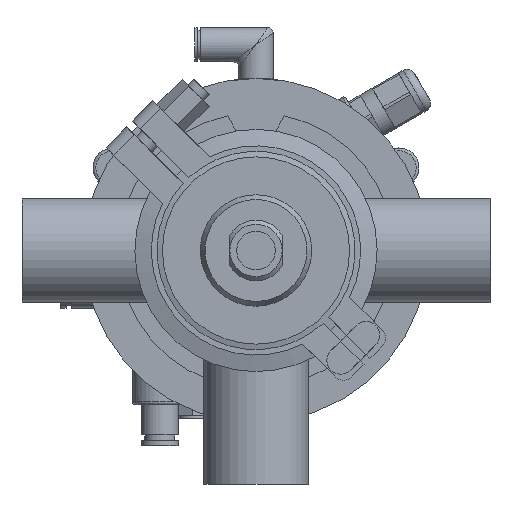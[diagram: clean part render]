
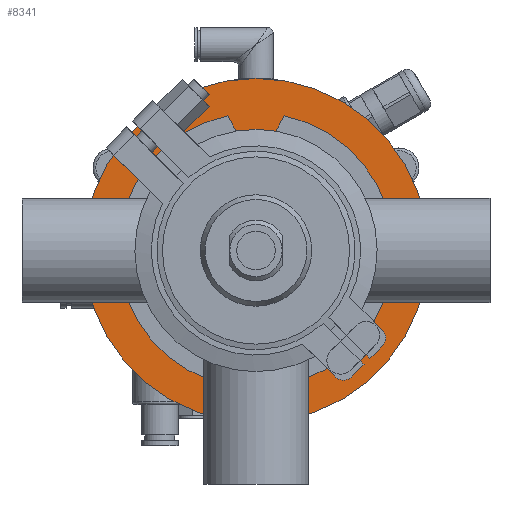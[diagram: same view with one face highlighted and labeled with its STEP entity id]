
A CAD part, front view. The second image highlights one B-rep face of the part: STEP entity #8341.
In plain terms, the highlighted planar face has unit normal (0, -1, 0).
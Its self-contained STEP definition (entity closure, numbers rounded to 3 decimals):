
#2455 = CARTESIAN_POINT ( 'NONE',  ( 0., 0., 0. ) ) ;
#3569 = DIRECTION ( 'NONE',  ( 0., 0., -1. ) ) ;
#8341 = ADVANCED_FACE ( 'NONE', ( #60030 ), #27608, .F. ) ;
#12394 = DIRECTION ( 'NONE',  ( 0., 1., 0. ) ) ;
#15424 = CARTESIAN_POINT ( 'NONE',  ( 0., 0., 0. ) ) ;
#17092 = AXIS2_PLACEMENT_3D ( 'NONE', #2455, #12394, #31364 ) ;
#19326 = VERTEX_POINT ( 'NONE', #57690 ) ;
#20189 = EDGE_LOOP ( 'NONE', ( #41571 ) ) ;
#26710 = EDGE_CURVE ( 'NONE', #19326, #19326, #59566, .T. ) ;
#27608 = PLANE ( 'NONE',  #17092 ) ;
#31364 = DIRECTION ( 'NONE',  ( 0., 0., 1. ) ) ;
#32694 = AXIS2_PLACEMENT_3D ( 'NONE', #15424, #40352, #3569 ) ;
#40352 = DIRECTION ( 'NONE',  ( 0., -1., 0. ) ) ;
#41571 = ORIENTED_EDGE ( 'NONE', *, *, #26710, .T. ) ;
#57690 = CARTESIAN_POINT ( 'NONE',  ( 0., 0., -62.5 ) ) ;
#59566 = CIRCLE ( 'NONE', #32694, 62.5 ) ;
#60030 = FACE_OUTER_BOUND ( 'NONE', #20189, .T. ) ;
